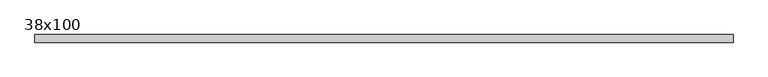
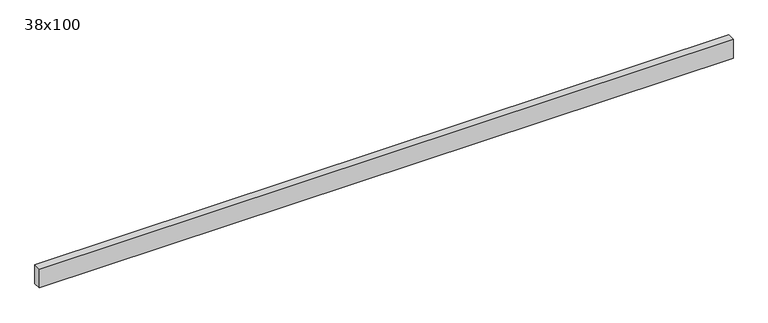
"""IFC4 building model written with IfcOpenShell, lengths in millimetres: beam geometry, Poutre - Bois de construction de dimensions courantes : 38x100."""

from ifc_helpers import new_model, si_unit, frame, origin, place, context, project, spatial, polyline, outline, extrude, source, transform, mapped, element, save


def beam_38x100_7ba3a889(model_context):
    return source(origin(), model_context, "Body", "SweptSolid", [
        extrude(outline(polyline([(1741.5, 19.05), (1741.5, -19.05), (-1741.5, -19.05), (-1741.5, 19.05), (1741.5, 19.05)])), frame((0.0, 0.0, -50.0), z_axis=(0.0, 0.0, 1.0), x_axis=(1.0, 0.0, 0.0)), (0.0, 0.0, 1.0), 100.0),
    ])


if __name__ == "__main__":
    model = new_model("IFC4")
    model_context = context("Model", 3, world=origin())
    ifc_project = project(units=[si_unit("LENGTHUNIT", "METRE", prefix="MILLI")], contexts=[model_context])
    site = spatial("IfcSite", under=ifc_project)
    building = spatial("IfcBuilding", under=site)
    placement = place(None, origin())
    beam_38x100_shape = beam_38x100_7ba3a889(model_context)
    element("IfcBeam", 1, ObjectType="Poutre - Bois de construction de dimensions courantes : 38x100", at=placement, inside=building, context=model_context, shape_type="MappedRepresentation", body=[
        mapped(beam_38x100_shape, transform((0.0, 0.0, 0.0), x_axis=(1.0, 0.0, 0.0), y_axis=(0.0, 1.0, 0.0), z_axis=(0.0, 0.0, 1.0))),
    ])
    save(model, "model.ifc")
